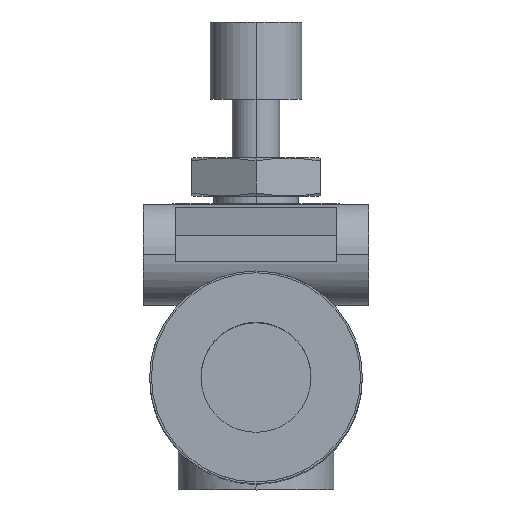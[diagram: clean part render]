
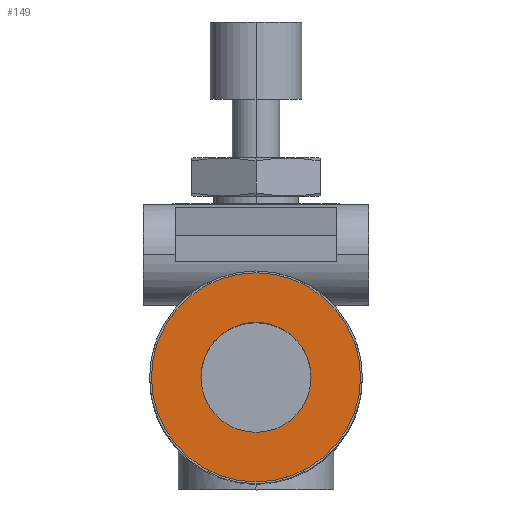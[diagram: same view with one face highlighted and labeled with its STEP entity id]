
A CAD part, top view. The second image highlights one B-rep face of the part: STEP entity #149.
In plain terms, the highlighted planar face has unit normal (0, 0, 1).
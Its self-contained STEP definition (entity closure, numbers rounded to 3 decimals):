
#149 = ADVANCED_FACE( '', ( #317, #318 ), #319, .T. );
#317 = FACE_BOUND( '', #488, .T. );
#318 = FACE_OUTER_BOUND( '', #489, .T. );
#319 = PLANE( '', #490 );
#488 = EDGE_LOOP( '', ( #1069, #1070 ) );
#489 = EDGE_LOOP( '', ( #1071, #1072 ) );
#490 = AXIS2_PLACEMENT_3D( '', #1073, #1074, #1075 );
#1069 = ORIENTED_EDGE( '', *, *, #1267, .F. );
#1070 = ORIENTED_EDGE( '', *, *, #1091, .F. );
#1071 = ORIENTED_EDGE( '', *, *, #1095, .T. );
#1072 = ORIENTED_EDGE( '', *, *, #1266, .T. );
#1073 = CARTESIAN_POINT( '', ( 0., 4.35, 19.75 ) );
#1074 = DIRECTION( '', ( 0., 0., 1. ) );
#1075 = DIRECTION( '', ( 0., 1., 0. ) );
#1091 = EDGE_CURVE( '', #1274, #1270, #1276, .T. );
#1095 = EDGE_CURVE( '', #1278, #1282, #1284, .T. );
#1266 = EDGE_CURVE( '', #1282, #1278, #1566, .T. );
#1267 = EDGE_CURVE( '', #1270, #1274, #1567, .T. );
#1270 = VERTEX_POINT( '', #1570 );
#1274 = VERTEX_POINT( '', #1575 );
#1276 = CIRCLE( '', #1578, 3. );
#1278 = VERTEX_POINT( '', #1580 );
#1282 = VERTEX_POINT( '', #1585 );
#1284 = CIRCLE( '', #1588, 5.7 );
#1566 = CIRCLE( '', #2674, 5.7 );
#1567 = CIRCLE( '', #2675, 3. );
#1570 = CARTESIAN_POINT( '', ( 0., 3., 19.75 ) );
#1575 = CARTESIAN_POINT( '', ( 0., -3., 19.75 ) );
#1578 = AXIS2_PLACEMENT_3D( '', #2682, #2683, #2684 );
#1580 = CARTESIAN_POINT( '', ( 0., 5.7, 19.75 ) );
#1585 = CARTESIAN_POINT( '', ( 0., -5.7, 19.75 ) );
#1588 = AXIS2_PLACEMENT_3D( '', #2690, #2691, #2692 );
#2674 = AXIS2_PLACEMENT_3D( '', #2964, #2965, #2966 );
#2675 = AXIS2_PLACEMENT_3D( '', #2967, #2968, #2969 );
#2682 = CARTESIAN_POINT( '', ( 0., 0., 19.75 ) );
#2683 = DIRECTION( '', ( 0., 0., 1. ) );
#2684 = DIRECTION( '', ( 0., 1., 0. ) );
#2690 = CARTESIAN_POINT( '', ( 0., 0., 19.75 ) );
#2691 = DIRECTION( '', ( 0., 0., 1. ) );
#2692 = DIRECTION( '', ( 0., 1., 0. ) );
#2964 = CARTESIAN_POINT( '', ( 0., 0., 19.75 ) );
#2965 = DIRECTION( '', ( 0., 0., 1. ) );
#2966 = DIRECTION( '', ( 0., 1., 0. ) );
#2967 = CARTESIAN_POINT( '', ( 0., 0., 19.75 ) );
#2968 = DIRECTION( '', ( 0., 0., 1. ) );
#2969 = DIRECTION( '', ( 0., 1., 0. ) );
